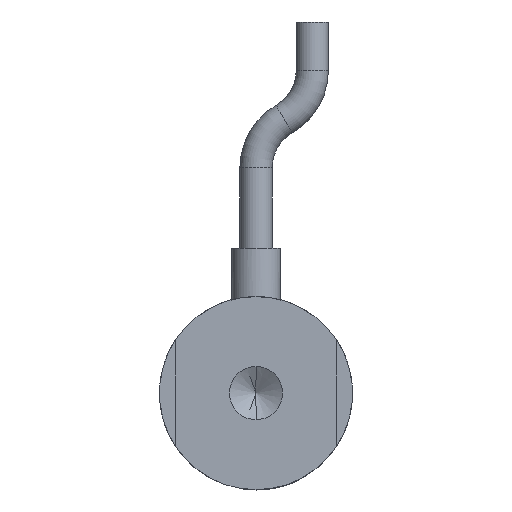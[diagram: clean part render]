
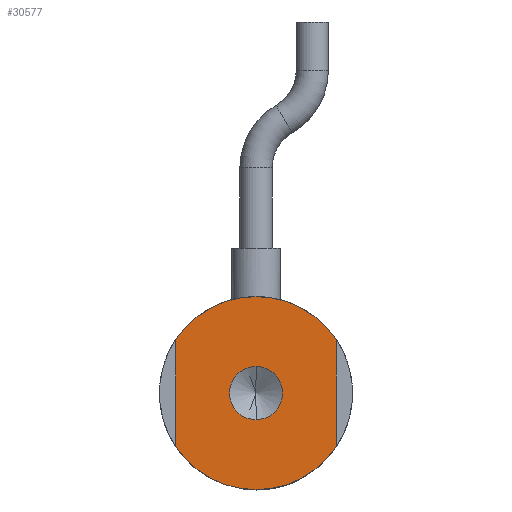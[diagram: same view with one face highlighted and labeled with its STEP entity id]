
A CAD part, front view. The second image highlights one B-rep face of the part: STEP entity #30577.
In plain terms, the highlighted planar face has unit normal (0, -1, 0).
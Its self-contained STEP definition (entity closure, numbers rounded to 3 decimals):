
#708 = VERTEX_POINT ( 'NONE', #36229 ) ;
#805 = CIRCLE ( 'NONE', #14974, 6. ) ;
#825 = LINE ( 'NONE', #36394, #18219 ) ;
#933 = DIRECTION ( 'NONE',  ( 0., 1., 0. ) ) ;
#947 = AXIS2_PLACEMENT_3D ( 'NONE', #25769, #5038, #29186 ) ;
#2081 = EDGE_LOOP ( 'NONE', ( #36549, #33700, #32278, #31910, #21458, #21102 ) ) ;
#2407 = PLANE ( 'NONE',  #38724 ) ;
#2873 = EDGE_CURVE ( 'NONE', #43322, #26826, #38348, .T. ) ;
#3397 = VERTEX_POINT ( 'NONE', #13171 ) ;
#5038 = DIRECTION ( 'NONE',  ( 0., 1., 0. ) ) ;
#6814 = EDGE_CURVE ( 'NONE', #3397, #39571, #20076, .T. ) ;
#7067 = DIRECTION ( 'NONE',  ( 0., 0., 1. ) ) ;
#9463 = EDGE_CURVE ( 'NONE', #708, #23912, #825, .T. ) ;
#9791 = CIRCLE ( 'NONE', #947, 6. ) ;
#9910 = VERTEX_POINT ( 'NONE', #23960 ) ;
#10117 = CIRCLE ( 'NONE', #12930, 6. ) ;
#10186 = CARTESIAN_POINT ( 'NONE',  ( 0., 0., 0. ) ) ;
#10571 = CARTESIAN_POINT ( 'NONE',  ( 0., 0., 0. ) ) ;
#10753 = AXIS2_PLACEMENT_3D ( 'NONE', #25681, #25585, #25535 ) ;
#11118 = EDGE_LOOP ( 'NONE', ( #34248, #12223 ) ) ;
#12144 = CARTESIAN_POINT ( 'NONE',  ( 0., 0., 1.65 ) ) ;
#12223 = ORIENTED_EDGE ( 'NONE', *, *, #19743, .F. ) ;
#12688 = CARTESIAN_POINT ( 'NONE',  ( 5., 0., -3.317 ) ) ;
#12905 = FACE_OUTER_BOUND ( 'NONE', #2081, .T. ) ;
#12930 = AXIS2_PLACEMENT_3D ( 'NONE', #10571, #34639, #14065 ) ;
#13171 = CARTESIAN_POINT ( 'NONE',  ( 0., 0., -1.65 ) ) ;
#13684 = DIRECTION ( 'NONE',  ( 0., 0., 1. ) ) ;
#14065 = DIRECTION ( 'NONE',  ( 0., 0., 1. ) ) ;
#14415 = EDGE_CURVE ( 'NONE', #23912, #40670, #34240, .T. ) ;
#14619 = DIRECTION ( 'NONE',  ( 0., -1., 0. ) ) ;
#14974 = AXIS2_PLACEMENT_3D ( 'NONE', #21735, #933, #25190 ) ;
#16390 = CARTESIAN_POINT ( 'NONE',  ( -5., 0., 0. ) ) ;
#18219 = VECTOR ( 'NONE', #36534, 1000. ) ;
#19674 = AXIS2_PLACEMENT_3D ( 'NONE', #10186, #34259, #13684 ) ;
#19743 = EDGE_CURVE ( 'NONE', #39571, #3397, #43537, .T. ) ;
#20019 = DIRECTION ( 'NONE',  ( 0., 0., 1. ) ) ;
#20076 = CIRCLE ( 'NONE', #10753, 1.65 ) ;
#20699 = EDGE_CURVE ( 'NONE', #40670, #43322, #9791, .T. ) ;
#21102 = ORIENTED_EDGE ( 'NONE', *, *, #32881, .F. ) ;
#21458 = ORIENTED_EDGE ( 'NONE', *, *, #34803, .F. ) ;
#21735 = CARTESIAN_POINT ( 'NONE',  ( 0., 0., 0. ) ) ;
#23912 = VERTEX_POINT ( 'NONE', #12688 ) ;
#23960 = CARTESIAN_POINT ( 'NONE',  ( 0., 0., 6. ) ) ;
#25190 = DIRECTION ( 'NONE',  ( 0., 0., 1. ) ) ;
#25535 = DIRECTION ( 'NONE',  ( 0., 0., -1. ) ) ;
#25585 = DIRECTION ( 'NONE',  ( 0., -1., 0. ) ) ;
#25681 = CARTESIAN_POINT ( 'NONE',  ( 0., 0., 0. ) ) ;
#25769 = CARTESIAN_POINT ( 'NONE',  ( 0., 0., 0. ) ) ;
#26826 = VERTEX_POINT ( 'NONE', #43033 ) ;
#29009 = CARTESIAN_POINT ( 'NONE',  ( 0., 0., -6. ) ) ;
#29186 = DIRECTION ( 'NONE',  ( 0., 0., 1. ) ) ;
#29247 = VECTOR ( 'NONE', #7067, 1000. ) ;
#30577 = ADVANCED_FACE ( 'NONE', ( #41261, #12905 ), #2407, .F. ) ;
#31910 = ORIENTED_EDGE ( 'NONE', *, *, #9463, .F. ) ;
#32278 = ORIENTED_EDGE ( 'NONE', *, *, #14415, .F. ) ;
#32881 = EDGE_CURVE ( 'NONE', #26826, #9910, #10117, .T. ) ;
#33700 = ORIENTED_EDGE ( 'NONE', *, *, #20699, .F. ) ;
#34240 = CIRCLE ( 'NONE', #19674, 6. ) ;
#34248 = ORIENTED_EDGE ( 'NONE', *, *, #6814, .F. ) ;
#34259 = DIRECTION ( 'NONE',  ( 0., 1., 0. ) ) ;
#34639 = DIRECTION ( 'NONE',  ( 0., 1., 0. ) ) ;
#34803 = EDGE_CURVE ( 'NONE', #9910, #708, #805, .T. ) ;
#35176 = CARTESIAN_POINT ( 'NONE',  ( 0., 0., 0. ) ) ;
#36229 = CARTESIAN_POINT ( 'NONE',  ( 5., 0., 3.317 ) ) ;
#36394 = CARTESIAN_POINT ( 'NONE',  ( 5., 0., 0. ) ) ;
#36534 = DIRECTION ( 'NONE',  ( 0., 0., -1. ) ) ;
#36549 = ORIENTED_EDGE ( 'NONE', *, *, #2873, .F. ) ;
#38177 = AXIS2_PLACEMENT_3D ( 'NONE', #35176, #14619, #38568 ) ;
#38348 = LINE ( 'NONE', #16390, #29247 ) ;
#38568 = DIRECTION ( 'NONE',  ( 0., 0., -1. ) ) ;
#38724 = AXIS2_PLACEMENT_3D ( 'NONE', #40125, #40401, #20019 ) ;
#39571 = VERTEX_POINT ( 'NONE', #12144 ) ;
#39578 = CARTESIAN_POINT ( 'NONE',  ( -5., 0., -3.317 ) ) ;
#40125 = CARTESIAN_POINT ( 'NONE',  ( 0., 0., 0. ) ) ;
#40401 = DIRECTION ( 'NONE',  ( 0., 1., 0. ) ) ;
#40670 = VERTEX_POINT ( 'NONE', #29009 ) ;
#41261 = FACE_BOUND ( 'NONE', #11118, .T. ) ;
#43033 = CARTESIAN_POINT ( 'NONE',  ( -5., 0., 3.317 ) ) ;
#43322 = VERTEX_POINT ( 'NONE', #39578 ) ;
#43537 = CIRCLE ( 'NONE', #38177, 1.65 ) ;
